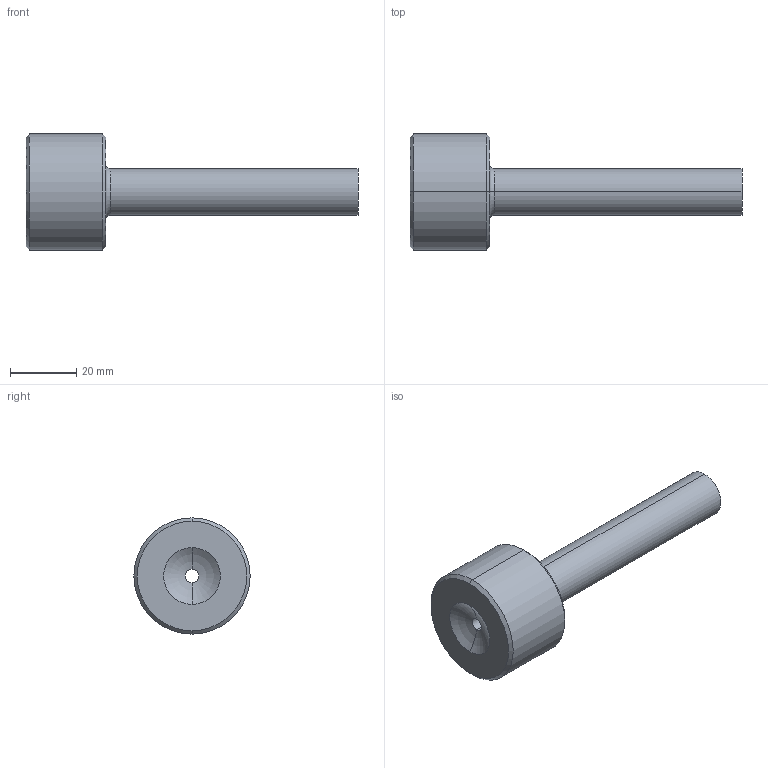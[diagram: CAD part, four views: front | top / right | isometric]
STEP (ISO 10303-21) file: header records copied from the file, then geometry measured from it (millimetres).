
FILE_DESCRIPTION (( 'STEP AP214' ), '1' );
FILE_NAME ('BRB3-B3T-24x100.STEP', '2020-11-24T14:22:22', ( '' ), ( '' ), 'SwSTEP 2.0', 'SolidWorks 2018', '' );
FILE_SCHEMA (( 'AUTOMOTIVE_DESIGN' ));
Length unit declared in the file: millimetre
Products named in the file (1): BRB3-B3T-24x100
Bounding box: 100 x 35 x 35 mm (x, y, z)
Volume: 31795.8 mm3; surface area: 9456.4 mm2
Topology: 1 solids, 1 shells, 17 faces, 34 edges, 20 vertices
Faces by surface type: cone 6, cylinder 4, torus 4, plane 3
Entity records: 486 total; most frequent: DIRECTION 94, CARTESIAN_POINT 72, ORIENTED_EDGE 68, AXIS2_PLACEMENT_3D 42, EDGE_CURVE 34, CIRCLE 24, EDGE_LOOP 20, VERTEX_POINT 20
